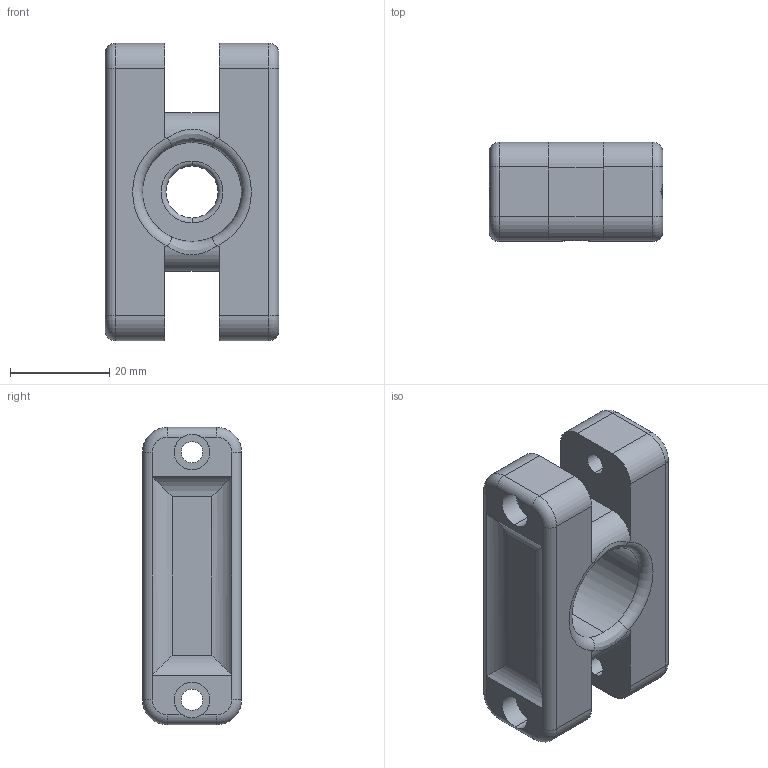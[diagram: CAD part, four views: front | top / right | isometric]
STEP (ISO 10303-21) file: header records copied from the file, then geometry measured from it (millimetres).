
FILE_DESCRIPTION (( 'STEP AP203' ), '1' );
FILE_NAME ('Rear Wheel Hub Left.STEP', '2026-01-17T21:11:00', ( '' ), ( '' ), 'SwSTEP 2.0', 'SolidWorks 2026', '' );
FILE_SCHEMA (( 'CONFIG_CONTROL_DESIGN' ));
Length unit declared in the file: millimetre
Products named in the file (1): Rear Wheel Hub Left
Bounding box: 35 x 20 x 60 mm (x, y, z)
Volume: 26248.2 mm3; surface area: 9584.2 mm2
Topology: 1 solids, 1 shells, 96 faces, 250 edges, 156 vertices
Faces by surface type: cylinder 44, plane 36, torus 14, bspline 2
Entity records: 3195 total; most frequent: CARTESIAN_POINT 735, DIRECTION 512, ORIENTED_EDGE 500, EDGE_CURVE 250, AXIS2_PLACEMENT_3D 189, VERTEX_POINT 156, VECTOR 134, LINE 134
